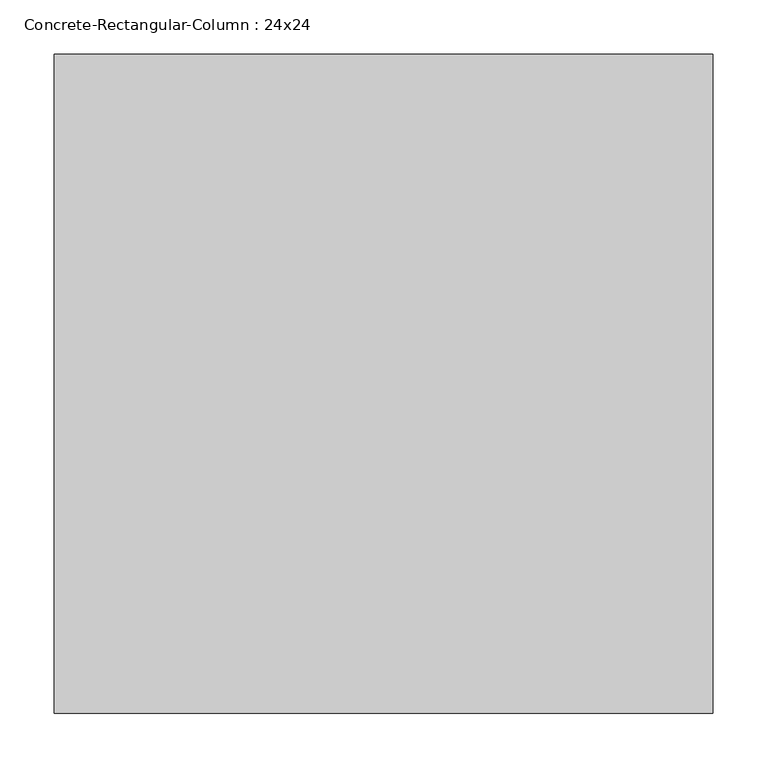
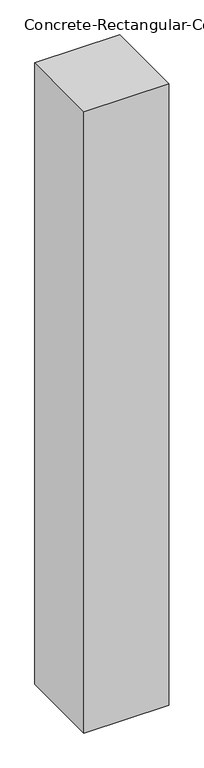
"""IFC4 building model written with IfcOpenShell, lengths in millimetres: column geometry, Concrete-Rectangular-Column : 24x24."""

from ifc_helpers import new_model, si_unit, frame, origin, place, context, project, spatial, polyline, outline, extrude, source, transform, mapped, element, save


def concrete_rectangular_column_24x24_6529459b(model_context):
    return source(origin(), model_context, "Body", "SweptSolid", [
        extrude(outline(polyline([(304.8, 304.8), (304.8, -304.8), (-304.8, -304.8), (-304.8, 304.8), (304.8, 304.8)])), frame((0.0, 0.0, -1676.4), z_axis=(0.0, 0.0, 1.0), x_axis=(1.0, 0.0, 0.0)), (0.0, 0.0, 1.0), 4724.4),
    ])


if __name__ == "__main__":
    model = new_model("IFC4")
    model_context = context("Model", 3, world=origin())
    ifc_project = project(units=[si_unit("LENGTHUNIT", "METRE", prefix="MILLI")], contexts=[model_context])
    site = spatial("IfcSite", under=ifc_project)
    building = spatial("IfcBuilding", under=site)
    placement = place(None, origin())
    concrete_rectangular_column_24x24_shape = concrete_rectangular_column_24x24_6529459b(model_context)
    element("IfcColumn", 1, ObjectType="Concrete-Rectangular-Column : 24x24", at=placement, inside=building, context=model_context, shape_type="MappedRepresentation", body=[
        mapped(concrete_rectangular_column_24x24_shape, transform((0.0, 0.0, 0.0), x_axis=(1.0, 0.0, 0.0), y_axis=(0.0, 1.0, 0.0), z_axis=(0.0, 0.0, 1.0))),
    ])
    save(model, "model.ifc")
